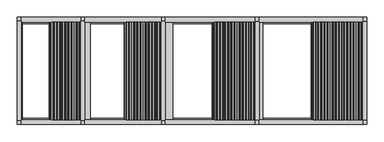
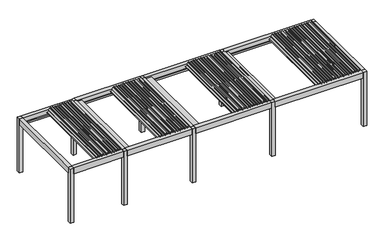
"""IFC4 building model written with IfcOpenShell, lengths in millimetres: proxy geometry, Renson_Camargue_Skye_Freestanding_Patio covers : Renson_Camargue_Skye_Freestanding_Patio covers."""

from ifc_helpers import new_model, si_unit, point, frame, frame_2d, origin, origin_with_axes, place, context, project, spatial, polyline, circle_curve, trimmed, segment, composite_curve, outline, extrude, source, transform, mapped, element, save


def generic_models_8e60f1ae(model_context):
    return source(origin(), model_context, "Body", "SweptSolid", [
        extrude(outline(composite_curve([segment(polyline([(2532.0835122, 11460.9276745), (2553.3547618, 11443.0789769), (2574.7237457, 11462.4891952), (2586.077577, 11446.2742437), (2504.561844, 11372.2305651)]), True, "CONTINUOUS"), segment(trimmed(circle_curve(frame_2d((2494.4763419, 11383.333837)), 15.0), [point((2504.561844, 11372.2305651))], [point((2485.8726953, 11371.0465563))], False, "CARTESIAN"), True, "CONTINUOUS"), segment(polyline([(2485.8726953, 11371.0465563), (2469.8777579, 11382.2463321), (2407.8391957, 11320.2077699), (2417.7863257, 11306.0017959), (2406.4649975, 11295.7182254), (2384.9376513, 11313.7818136), (2532.0835122, 11460.9276745)]), True, "CONTINUOUS")], self_intersect=False)), frame((0.0, -1830.0, 0.0), z_axis=(0.0, 1.0, 0.0), x_axis=(0.0, 0.0, 1.0)), (0.0, 0.0, 1.0), 3660.0),
        extrude(outline(composite_curve([segment(polyline([(2532.0835122, 11353.4168697), (2553.3547618, 11335.5681721), (2574.7237457, 11354.9783904), (2586.077577, 11338.7634389), (2504.561844, 11264.7197603)]), True, "CONTINUOUS"), segment(trimmed(circle_curve(frame_2d((2494.4763419, 11275.8230322)), 15.0), [point((2504.561844, 11264.7197603))], [point((2485.8726953, 11263.5357516))], False, "CARTESIAN"), True, "CONTINUOUS"), segment(polyline([(2485.8726953, 11263.5357516), (2469.8777579, 11274.7355273), (2407.8391957, 11212.6969652), (2417.7863257, 11198.4909912), (2406.4649975, 11188.2074206), (2384.9376513, 11206.2710088), (2532.0835122, 11353.4168697)]), True, "CONTINUOUS")], self_intersect=False)), frame((0.0, -1830.0, 0.0), z_axis=(0.0, 1.0, 0.0), x_axis=(0.0, 0.0, 1.0)), (0.0, 0.0, 1.0), 3660.0),
        extrude(outline(composite_curve([segment(polyline([(2532.0835122, 11245.906065), (2553.3547618, 11228.0573673), (2574.7237457, 11247.4675857), (2586.077577, 11231.2526342), (2504.561844, 11157.2089555)]), True, "CONTINUOUS"), segment(trimmed(circle_curve(frame_2d((2494.4763419, 11168.3122274)), 15.0), [point((2504.561844, 11157.2089555))], [point((2485.8726953, 11156.0249468))], False, "CARTESIAN"), True, "CONTINUOUS"), segment(polyline([(2485.8726953, 11156.0249468), (2469.8777579, 11167.2247226), (2407.8391957, 11105.1861604), (2417.7863257, 11090.9801864), (2406.4649975, 11080.6966158), (2384.9376513, 11098.760204), (2532.0835122, 11245.906065)]), True, "CONTINUOUS")], self_intersect=False)), frame((0.0, -1830.0, 0.0), z_axis=(0.0, 1.0, 0.0), x_axis=(0.0, 0.0, 1.0)), (0.0, 0.0, 1.0), 3660.0),
        extrude(outline(composite_curve([segment(polyline([(2532.0835122, 11138.3952602), (2553.3547618, 11120.5465625), (2574.7237457, 11139.9567809), (2586.077577, 11123.7418294), (2504.561844, 11049.6981507)]), True, "CONTINUOUS"), segment(trimmed(circle_curve(frame_2d((2494.4763419, 11060.8014227)), 15.0), [point((2504.561844, 11049.6981507))], [point((2485.8726953, 11048.514142))], False, "CARTESIAN"), True, "CONTINUOUS"), segment(polyline([(2485.8726953, 11048.514142), (2469.8777579, 11059.7139178), (2407.8391957, 10997.6753556), (2417.7863257, 10983.4693816), (2406.4649975, 10973.185811), (2384.9376513, 10991.2493993), (2532.0835122, 11138.3952602)]), True, "CONTINUOUS")], self_intersect=False)), frame((0.0, -1830.0, 0.0), z_axis=(0.0, 1.0, 0.0), x_axis=(0.0, 0.0, 1.0)), (0.0, 0.0, 1.0), 3660.0),
        extrude(outline(composite_curve([segment(polyline([(2532.0835122, 11030.8844554), (2553.3547618, 11013.0357577), (2574.7237457, 11032.4459761), (2586.077577, 11016.2310246), (2504.561844, 10942.187346)]), True, "CONTINUOUS"), segment(trimmed(circle_curve(frame_2d((2494.4763419, 10953.2906179)), 15.0), [point((2504.561844, 10942.187346))], [point((2485.8726953, 10941.0033372))], False, "CARTESIAN"), True, "CONTINUOUS"), segment(polyline([(2485.8726953, 10941.0033372), (2469.8777579, 10952.203113), (2407.8391957, 10890.1645508), (2417.7863257, 10875.9585768), (2406.4649975, 10865.6750063), (2384.9376513, 10883.7385945), (2532.0835122, 11030.8844554)]), True, "CONTINUOUS")], self_intersect=False)), frame((0.0, -1830.0, 0.0), z_axis=(0.0, 1.0, 0.0), x_axis=(0.0, 0.0, 1.0)), (0.0, 0.0, 1.0), 3660.0),
        extrude(outline(composite_curve([segment(polyline([(2532.0835122, 10923.3736506), (2553.3547618, 10905.5249529), (2574.7237457, 10924.9351713), (2586.077577, 10908.7202198), (2504.561844, 10834.6765412)]), True, "CONTINUOUS"), segment(trimmed(circle_curve(frame_2d((2494.4763419, 10845.7798131)), 15.0), [point((2504.561844, 10834.6765412))], [point((2485.8726953, 10833.4925324))], False, "CARTESIAN"), True, "CONTINUOUS"), segment(polyline([(2485.8726953, 10833.4925324), (2469.8777579, 10844.6923082), (2407.8391957, 10782.653746), (2417.7863257, 10768.447772), (2406.4649975, 10758.1642015), (2384.9376513, 10776.2277897), (2532.0835122, 10923.3736506)]), True, "CONTINUOUS")], self_intersect=False)), frame((0.0, -1830.0, 0.0), z_axis=(0.0, 1.0, 0.0), x_axis=(0.0, 0.0, 1.0)), (0.0, 0.0, 1.0), 3660.0),
        extrude(outline(composite_curve([segment(polyline([(2532.0835122, 10815.8628458), (2553.3547618, 10798.0141482), (2574.7237457, 10817.4243665), (2586.077577, 10801.209415), (2504.561844, 10727.1657364)]), True, "CONTINUOUS"), segment(trimmed(circle_curve(frame_2d((2494.4763419, 10738.2690083)), 15.0), [point((2504.561844, 10727.1657364))], [point((2485.8726953, 10725.9817276))], False, "CARTESIAN"), True, "CONTINUOUS"), segment(polyline([(2485.8726953, 10725.9817276), (2469.8777579, 10737.1815034), (2407.8391957, 10675.1429413), (2417.7863257, 10660.9369673), (2406.4649975, 10650.6533967), (2384.9376513, 10668.7169849), (2532.0835122, 10815.8628458)]), True, "CONTINUOUS")], self_intersect=False)), frame((0.0, -1830.0, 0.0), z_axis=(0.0, 1.0, 0.0), x_axis=(0.0, 0.0, 1.0)), (0.0, 0.0, 1.0), 3660.0),
        extrude(outline(composite_curve([segment(polyline([(2532.0835122, 10708.3520411), (2553.3547618, 10690.5033434), (2574.7237457, 10709.9135617), (2586.077577, 10693.6986103), (2504.561844, 10619.6549316)]), True, "CONTINUOUS"), segment(trimmed(circle_curve(frame_2d((2494.4763419, 10630.7582035)), 15.0), [point((2504.561844, 10619.6549316))], [point((2485.8726953, 10618.4709229))], False, "CARTESIAN"), True, "CONTINUOUS"), segment(polyline([(2485.8726953, 10618.4709229), (2469.8777579, 10629.6706987), (2407.8391957, 10567.6321365), (2417.7863257, 10553.4261625), (2406.4649975, 10543.1425919), (2384.9376513, 10561.2061801), (2532.0835122, 10708.3520411)]), True, "CONTINUOUS")], self_intersect=False)), frame((0.0, -1830.0, 0.0), z_axis=(0.0, 1.0, 0.0), x_axis=(0.0, 0.0, 1.0)), (0.0, 0.0, 1.0), 3660.0),
        extrude(outline(composite_curve([segment(polyline([(2532.0835122, 10600.8412363), (2553.3547618, 10582.9925386), (2574.7237457, 10602.402757), (2586.077577, 10586.1878055), (2504.561844, 10512.1441268)]), True, "CONTINUOUS"), segment(trimmed(circle_curve(frame_2d((2494.4763419, 10523.2473987)), 15.0), [point((2504.561844, 10512.1441268))], [point((2485.8726953, 10510.9601181))], False, "CARTESIAN"), True, "CONTINUOUS"), segment(polyline([(2485.8726953, 10510.9601181), (2469.8777579, 10522.1598939), (2407.8391957, 10460.1213317), (2417.7863257, 10445.9153577), (2406.4649975, 10435.6317871), (2384.9376513, 10453.6953753), (2532.0835122, 10600.8412363)]), True, "CONTINUOUS")], self_intersect=False)), frame((0.0, -1830.0, 0.0), z_axis=(0.0, 1.0, 0.0), x_axis=(0.0, 0.0, 1.0)), (0.0, 0.0, 1.0), 3660.0),
        extrude(outline(composite_curve([segment(polyline([(2532.0835122, 10493.3304315), (2553.3547618, 10475.4817338), (2574.7237457, 10494.8919522), (2586.077577, 10478.6770007), (2504.561844, 10404.6333221)]), True, "CONTINUOUS"), segment(trimmed(circle_curve(frame_2d((2494.4763419, 10415.736594)), 15.0), [point((2504.561844, 10404.6333221))], [point((2485.8726953, 10403.4493133))], False, "CARTESIAN"), True, "CONTINUOUS"), segment(polyline([(2485.8726953, 10403.4493133), (2469.8777579, 10414.6490891), (2407.8391957, 10352.6105269), (2417.7863257, 10338.4045529), (2406.4649975, 10328.1209823), (2384.9376513, 10346.1845706), (2532.0835122, 10493.3304315)]), True, "CONTINUOUS")], self_intersect=False)), frame((0.0, -1830.0, 0.0), z_axis=(0.0, 1.0, 0.0), x_axis=(0.0, 0.0, 1.0)), (0.0, 0.0, 1.0), 3660.0),
        extrude(outline(composite_curve([segment(polyline([(2532.0835122, 10385.8196267), (2553.3547618, 10367.970929), (2574.7237457, 10387.3811474), (2586.077577, 10371.1661959), (2504.561844, 10297.1225173)]), True, "CONTINUOUS"), segment(trimmed(circle_curve(frame_2d((2494.4763419, 10308.2257892)), 15.0), [point((2504.561844, 10297.1225173))], [point((2485.8726953, 10295.9385085))], False, "CARTESIAN"), True, "CONTINUOUS"), segment(polyline([(2485.8726953, 10295.9385085), (2469.8777579, 10307.1382843), (2407.8391957, 10245.0997221), (2417.7863257, 10230.8937481), (2406.4649975, 10220.6101776), (2384.9376513, 10238.6737658), (2532.0835122, 10385.8196267)]), True, "CONTINUOUS")], self_intersect=False)), frame((0.0, -1830.0, 0.0), z_axis=(0.0, 1.0, 0.0), x_axis=(0.0, 0.0, 1.0)), (0.0, 0.0, 1.0), 3660.0),
        extrude(outline(composite_curve([segment(polyline([(2532.0835122, 10278.3088219), (2553.3547618, 10260.4601243), (2574.7237457, 10279.8703426), (2586.077577, 10263.6553911), (2504.561844, 10189.6117125)]), True, "CONTINUOUS"), segment(trimmed(circle_curve(frame_2d((2494.4763419, 10200.7149844)), 15.0), [point((2504.561844, 10189.6117125))], [point((2485.8726953, 10188.4277037))], False, "CARTESIAN"), True, "CONTINUOUS"), segment(polyline([(2485.8726953, 10188.4277037), (2469.8777579, 10199.6274795), (2407.8391957, 10137.5889173), (2417.7863257, 10123.3829433), (2406.4649975, 10113.0993728), (2384.9376513, 10131.162961), (2532.0835122, 10278.3088219)]), True, "CONTINUOUS")], self_intersect=False)), frame((0.0, -1830.0, 0.0), z_axis=(0.0, 1.0, 0.0), x_axis=(0.0, 0.0, 1.0)), (0.0, 0.0, 1.0), 3660.0),
        extrude(outline(composite_curve([segment(polyline([(2532.0835122, 10170.7980171), (2553.3547618, 10152.9493195), (2574.7237457, 10172.3595378), (2586.077577, 10156.1445863), (2504.561844, 10082.1009077)]), True, "CONTINUOUS"), segment(trimmed(circle_curve(frame_2d((2494.4763419, 10093.2041796)), 15.0), [point((2504.561844, 10082.1009077))], [point((2485.8726953, 10080.916899))], False, "CARTESIAN"), True, "CONTINUOUS"), segment(polyline([(2485.8726953, 10080.916899), (2469.8777579, 10092.1166747), (2407.8391957, 10030.0781126), (2417.7863257, 10015.8721386), (2406.4649975, 10005.588568), (2384.9376513, 10023.6521562), (2532.0835122, 10170.7980171)]), True, "CONTINUOUS")], self_intersect=False)), frame((0.0, -1830.0, 0.0), z_axis=(0.0, 1.0, 0.0), x_axis=(0.0, 0.0, 1.0)), (0.0, 0.0, 1.0), 3660.0),
        extrude(outline(composite_curve([segment(polyline([(2532.0835122, 10063.2872124), (2553.3547618, 10045.4385147), (2574.7237457, 10064.8487331), (2586.077577, 10048.6337816), (2504.561844, 9974.5901029)]), True, "CONTINUOUS"), segment(trimmed(circle_curve(frame_2d((2494.4763419, 9985.6933748)), 15.0), [point((2504.561844, 9974.5901029))], [point((2485.8726953, 9973.4060942))], False, "CARTESIAN"), True, "CONTINUOUS"), segment(polyline([(2485.8726953, 9973.4060942), (2469.8777579, 9984.60587), (2407.8391957, 9922.5673078), (2417.7863257, 9908.3613338), (2406.4649975, 9898.0777632), (2384.9376513, 9916.1413514), (2532.0835122, 10063.2872124)]), True, "CONTINUOUS")], self_intersect=False)), frame((0.0, -1830.0, 0.0), z_axis=(0.0, 1.0, 0.0), x_axis=(0.0, 0.0, 1.0)), (0.0, 0.0, 1.0), 3660.0),
        extrude(outline(composite_curve([segment(polyline([(2532.0835122, 9955.7764076), (2553.3547618, 9937.9277099), (2574.7237457, 9957.3379283), (2586.077577, 9941.1229768), (2504.561844, 9867.0792981)]), True, "CONTINUOUS"), segment(trimmed(circle_curve(frame_2d((2494.4763419, 9878.1825701)), 15.0), [point((2504.561844, 9867.0792981))], [point((2485.8726953, 9865.8952894))], False, "CARTESIAN"), True, "CONTINUOUS"), segment(polyline([(2485.8726953, 9865.8952894), (2469.8777579, 9877.0950652), (2407.8391957, 9815.056503), (2417.7863257, 9800.850529), (2406.4649975, 9790.5669584), (2384.9376513, 9808.6305467), (2532.0835122, 9955.7764076)]), True, "CONTINUOUS")], self_intersect=False)), frame((0.0, -1830.0, 0.0), z_axis=(0.0, 1.0, 0.0), x_axis=(0.0, 0.0, 1.0)), (0.0, 0.0, 1.0), 3660.0),
        extrude(outline(composite_curve([segment(polyline([(2532.0835122, 11568.4384793), (2553.3547618, 11550.5897816), (2574.7237457, 11570.0), (2586.077577, 11553.7850485), (2504.561844, 11479.7413699)]), True, "CONTINUOUS"), segment(trimmed(circle_curve(frame_2d((2494.4763419, 11490.8446418)), 15.0), [point((2504.561844, 11479.7413699))], [point((2485.8726953, 11478.5573611))], False, "CARTESIAN"), True, "CONTINUOUS"), segment(polyline([(2485.8726953, 11478.5573611), (2469.8777579, 11489.7571369), (2407.8391957, 11427.7185747), (2417.7863257, 11413.5126007), (2406.4649975, 11403.2290302), (2384.9376513, 11421.2926184), (2532.0835122, 11568.4384793)]), True, "CONTINUOUS")], self_intersect=False)), frame((0.0, -1830.0, 0.0), z_axis=(0.0, 1.0, 0.0), x_axis=(0.0, 0.0, 1.0)), (0.0, 0.0, 1.0), 3660.0),
        extrude(outline(composite_curve([segment(polyline([(2532.0835122, 9848.2656028), (2553.3547618, 9830.4169051), (2574.7237457, 9849.8271235), (2586.077577, 9833.612172), (2504.561844, 9759.5684934)]), True, "CONTINUOUS"), segment(trimmed(circle_curve(frame_2d((2494.4763419, 9770.6717653)), 15.0), [point((2504.561844, 9759.5684934))], [point((2485.8726953, 9758.3844846))], False, "CARTESIAN"), True, "CONTINUOUS"), segment(polyline([(2485.8726953, 9758.3844846), (2469.8777579, 9769.5842604), (2407.8391957, 9707.5456982), (2417.7863257, 9693.3397242), (2406.4649975, 9683.0561537), (2384.9376513, 9701.1197419), (2532.0835122, 9848.2656028)]), True, "CONTINUOUS")], self_intersect=False)), frame((0.0, -1830.0, 0.0), z_axis=(0.0, 1.0, 0.0), x_axis=(0.0, 0.0, 1.0)), (0.0, 0.0, 1.0), 3660.0),
        extrude(outline(composite_curve([segment(polyline([(2532.0835122, 7460.9251811), (2553.3547618, 7443.0764834), (2574.7237457, 7462.4867018), (2586.077577, 7446.2717503), (2504.561844, 7372.2280717)]), True, "CONTINUOUS"), segment(trimmed(circle_curve(frame_2d((2494.4763419, 7383.3313436)), 15.0), [point((2504.561844, 7372.2280717))], [point((2485.8726953, 7371.0440629))], False, "CARTESIAN"), True, "CONTINUOUS"), segment(polyline([(2485.8726953, 7371.0440629), (2469.8777579, 7382.2438387), (2407.8391957, 7320.2052765), (2417.7863257, 7305.9993025), (2406.4649975, 7295.715732), (2384.9376513, 7313.7793202), (2532.0835122, 7460.9251811)]), True, "CONTINUOUS")], self_intersect=False)), frame((0.0, -1830.0, 0.0), z_axis=(0.0, 1.0, 0.0), x_axis=(0.0, 0.0, 1.0)), (0.0, 0.0, 1.0), 3660.0),
        extrude(outline(composite_curve([segment(polyline([(2532.0835122, 7353.4118829), (2553.3547618, 7335.5631853), (2574.7237457, 7354.9734036), (2586.077577, 7338.7584521), (2504.561844, 7264.7147735)]), True, "CONTINUOUS"), segment(trimmed(circle_curve(frame_2d((2494.4763419, 7275.8180454)), 15.0), [point((2504.561844, 7264.7147735))], [point((2485.8726953, 7263.5307647))], False, "CARTESIAN"), True, "CONTINUOUS"), segment(polyline([(2485.8726953, 7263.5307647), (2469.8777579, 7274.7305405), (2407.8391957, 7212.6919783), (2417.7863257, 7198.4860043), (2406.4649975, 7188.2024338), (2384.9376513, 7206.266022), (2532.0835122, 7353.4118829)]), True, "CONTINUOUS")], self_intersect=False)), frame((0.0, -1830.0, 0.0), z_axis=(0.0, 1.0, 0.0), x_axis=(0.0, 0.0, 1.0)), (0.0, 0.0, 1.0), 3660.0),
        extrude(outline(composite_curve([segment(polyline([(2532.0835122, 7245.8985847), (2553.3547618, 7228.0498871), (2574.7237457, 7247.4601054), (2586.077577, 7231.2451539), (2504.561844, 7157.2014753)]), True, "CONTINUOUS"), segment(trimmed(circle_curve(frame_2d((2494.4763419, 7168.3047472)), 15.0), [point((2504.561844, 7157.2014753))], [point((2485.8726953, 7156.0174665))], False, "CARTESIAN"), True, "CONTINUOUS"), segment(polyline([(2485.8726953, 7156.0174665), (2469.8777579, 7167.2172423), (2407.8391957, 7105.1786801), (2417.7863257, 7090.9727062), (2406.4649975, 7080.6891356), (2384.9376513, 7098.7527238), (2532.0835122, 7245.8985847)]), True, "CONTINUOUS")], self_intersect=False)), frame((0.0, -1830.0, 0.0), z_axis=(0.0, 1.0, 0.0), x_axis=(0.0, 0.0, 1.0)), (0.0, 0.0, 1.0), 3660.0),
        extrude(outline(composite_curve([segment(polyline([(2532.0835122, 7138.3852865), (2553.3547618, 7120.5365889), (2574.7237457, 7139.9468072), (2586.077577, 7123.7318557), (2504.561844, 7049.6881771)]), True, "CONTINUOUS"), segment(trimmed(circle_curve(frame_2d((2494.4763419, 7060.791449)), 15.0), [point((2504.561844, 7049.6881771))], [point((2485.8726953, 7048.5041683))], False, "CARTESIAN"), True, "CONTINUOUS"), segment(polyline([(2485.8726953, 7048.5041683), (2469.8777579, 7059.7039441), (2407.8391957, 6997.665382), (2417.7863257, 6983.459408), (2406.4649975, 6973.1758374), (2384.9376513, 6991.2394256), (2532.0835122, 7138.3852865)]), True, "CONTINUOUS")], self_intersect=False)), frame((0.0, -1830.0, 0.0), z_axis=(0.0, 1.0, 0.0), x_axis=(0.0, 0.0, 1.0)), (0.0, 0.0, 1.0), 3660.0),
        extrude(outline(composite_curve([segment(polyline([(2532.0835122, 7030.8719883), (2553.3547618, 7013.0232907), (2574.7237457, 7032.433509), (2586.077577, 7016.2185575), (2504.561844, 6942.1748789)]), True, "CONTINUOUS"), segment(trimmed(circle_curve(frame_2d((2494.4763419, 6953.2781508)), 15.0), [point((2504.561844, 6942.1748789))], [point((2485.8726953, 6940.9908702))], False, "CARTESIAN"), True, "CONTINUOUS"), segment(polyline([(2485.8726953, 6940.9908702), (2469.8777579, 6952.1906459), (2407.8391957, 6890.1520838), (2417.7863257, 6875.9461098), (2406.4649975, 6865.6625392), (2384.9376513, 6883.7261274), (2532.0835122, 7030.8719883)]), True, "CONTINUOUS")], self_intersect=False)), frame((0.0, -1830.0, 0.0), z_axis=(0.0, 1.0, 0.0), x_axis=(0.0, 0.0, 1.0)), (0.0, 0.0, 1.0), 3660.0),
        extrude(outline(composite_curve([segment(polyline([(2532.0835122, 6923.3586901), (2553.3547618, 6905.5099925), (2574.7237457, 6924.9202108), (2586.077577, 6908.7052594), (2504.561844, 6834.6615807)]), True, "CONTINUOUS"), segment(trimmed(circle_curve(frame_2d((2494.4763419, 6845.7648526)), 15.0), [point((2504.561844, 6834.6615807))], [point((2485.8726953, 6833.477572))], False, "CARTESIAN"), True, "CONTINUOUS"), segment(polyline([(2485.8726953, 6833.477572), (2469.8777579, 6844.6773478), (2407.8391957, 6782.6387856), (2417.7863257, 6768.4328116), (2406.4649975, 6758.149241), (2384.9376513, 6776.2128292), (2532.0835122, 6923.3586901)]), True, "CONTINUOUS")], self_intersect=False)), frame((0.0, -1830.0, 0.0), z_axis=(0.0, 1.0, 0.0), x_axis=(0.0, 0.0, 1.0)), (0.0, 0.0, 1.0), 3660.0),
        extrude(outline(composite_curve([segment(polyline([(2532.0835122, 6815.845392), (2553.3547618, 6797.9966943), (2574.7237457, 6817.4069127), (2586.077577, 6801.1919612), (2504.561844, 6727.1482825)]), True, "CONTINUOUS"), segment(trimmed(circle_curve(frame_2d((2494.4763419, 6738.2515544)), 15.0), [point((2504.561844, 6727.1482825))], [point((2485.8726953, 6725.9642738))], False, "CARTESIAN"), True, "CONTINUOUS"), segment(polyline([(2485.8726953, 6725.9642738), (2469.8777579, 6737.1640496), (2407.8391957, 6675.1254874), (2417.7863257, 6660.9195134), (2406.4649975, 6650.6359428), (2384.9376513, 6668.699531), (2532.0835122, 6815.845392)]), True, "CONTINUOUS")], self_intersect=False)), frame((0.0, -1830.0, 0.0), z_axis=(0.0, 1.0, 0.0), x_axis=(0.0, 0.0, 1.0)), (0.0, 0.0, 1.0), 3660.0),
        extrude(outline(composite_curve([segment(polyline([(2532.0835122, 6708.3320938), (2553.3547618, 6690.4833961), (2574.7237457, 6709.8936145), (2586.077577, 6693.678663), (2504.561844, 6619.6349843)]), True, "CONTINUOUS"), segment(trimmed(circle_curve(frame_2d((2494.4763419, 6630.7382562)), 15.0), [point((2504.561844, 6619.6349843))], [point((2485.8726953, 6618.4509756))], False, "CARTESIAN"), True, "CONTINUOUS"), segment(polyline([(2485.8726953, 6618.4509756), (2469.8777579, 6629.6507514), (2407.8391957, 6567.6121892), (2417.7863257, 6553.4062152), (2406.4649975, 6543.1226446), (2384.9376513, 6561.1862328), (2532.0835122, 6708.3320938)]), True, "CONTINUOUS")], self_intersect=False)), frame((0.0, -1830.0, 0.0), z_axis=(0.0, 1.0, 0.0), x_axis=(0.0, 0.0, 1.0)), (0.0, 0.0, 1.0), 3660.0),
        extrude(outline(composite_curve([segment(polyline([(2532.0835122, 6600.8187956), (2553.3547618, 6582.9700979), (2574.7237457, 6602.3803163), (2586.077577, 6586.1653648), (2504.561844, 6512.1216861)]), True, "CONTINUOUS"), segment(trimmed(circle_curve(frame_2d((2494.4763419, 6523.224958)), 15.0), [point((2504.561844, 6512.1216861))], [point((2485.8726953, 6510.9376774))], False, "CARTESIAN"), True, "CONTINUOUS"), segment(polyline([(2485.8726953, 6510.9376774), (2469.8777579, 6522.1374532), (2407.8391957, 6460.098891), (2417.7863257, 6445.892917), (2406.4649975, 6435.6093464), (2384.9376513, 6453.6729346), (2532.0835122, 6600.8187956)]), True, "CONTINUOUS")], self_intersect=False)), frame((0.0, -1830.0, 0.0), z_axis=(0.0, 1.0, 0.0), x_axis=(0.0, 0.0, 1.0)), (0.0, 0.0, 1.0), 3660.0),
        extrude(outline(composite_curve([segment(polyline([(2532.0835122, 6493.3054974), (2553.3547618, 6475.4567997), (2574.7237457, 6494.8670181), (2586.077577, 6478.6520666), (2504.561844, 6404.6083879)]), True, "CONTINUOUS"), segment(trimmed(circle_curve(frame_2d((2494.4763419, 6415.7116599)), 15.0), [point((2504.561844, 6404.6083879))], [point((2485.8726953, 6403.4243792))], False, "CARTESIAN"), True, "CONTINUOUS"), segment(polyline([(2485.8726953, 6403.4243792), (2469.8777579, 6414.624155), (2407.8391957, 6352.5855928), (2417.7863257, 6338.3796188), (2406.4649975, 6328.0960482), (2384.9376513, 6346.1596365), (2532.0835122, 6493.3054974)]), True, "CONTINUOUS")], self_intersect=False)), frame((0.0, -1830.0, 0.0), z_axis=(0.0, 1.0, 0.0), x_axis=(0.0, 0.0, 1.0)), (0.0, 0.0, 1.0), 3660.0),
        extrude(outline(composite_curve([segment(polyline([(2532.0835122, 6385.7921992), (2553.3547618, 6367.9435015), (2574.7237457, 6387.3537199), (2586.077577, 6371.1387684), (2504.561844, 6297.0950897)]), True, "CONTINUOUS"), segment(trimmed(circle_curve(frame_2d((2494.4763419, 6308.1983617)), 15.0), [point((2504.561844, 6297.0950897))], [point((2485.8726953, 6295.911081))], False, "CARTESIAN"), True, "CONTINUOUS"), segment(polyline([(2485.8726953, 6295.911081), (2469.8777579, 6307.1108568), (2407.8391957, 6245.0722946), (2417.7863257, 6230.8663206), (2406.4649975, 6220.58275), (2384.9376513, 6238.6463383), (2532.0835122, 6385.7921992)]), True, "CONTINUOUS")], self_intersect=False)), frame((0.0, -1830.0, 0.0), z_axis=(0.0, 1.0, 0.0), x_axis=(0.0, 0.0, 1.0)), (0.0, 0.0, 1.0), 3660.0),
        extrude(outline(composite_curve([segment(polyline([(2532.0835122, 6278.278901), (2553.3547618, 6260.4302033), (2574.7237457, 6279.8404217), (2586.077577, 6263.6254702), (2504.561844, 6189.5817916)]), True, "CONTINUOUS"), segment(trimmed(circle_curve(frame_2d((2494.4763419, 6200.6850635)), 15.0), [point((2504.561844, 6189.5817916))], [point((2485.8726953, 6188.3977828))], False, "CARTESIAN"), True, "CONTINUOUS"), segment(polyline([(2485.8726953, 6188.3977828), (2469.8777579, 6199.5975586), (2407.8391957, 6137.5589964), (2417.7863257, 6123.3530224), (2406.4649975, 6113.0694519), (2384.9376513, 6131.1330401), (2532.0835122, 6278.278901)]), True, "CONTINUOUS")], self_intersect=False)), frame((0.0, -1830.0, 0.0), z_axis=(0.0, 1.0, 0.0), x_axis=(0.0, 0.0, 1.0)), (0.0, 0.0, 1.0), 3660.0),
        extrude(outline(composite_curve([segment(polyline([(2532.0835122, 7568.4384793), (2553.3547618, 7550.5897816), (2574.7237457, 7570.0), (2586.077577, 7553.7850485), (2504.561844, 7479.7413699)]), True, "CONTINUOUS"), segment(trimmed(circle_curve(frame_2d((2494.4763419, 7490.8446418)), 15.0), [point((2504.561844, 7479.7413699))], [point((2485.8726953, 7478.5573611))], False, "CARTESIAN"), True, "CONTINUOUS"), segment(polyline([(2485.8726953, 7478.5573611), (2469.8777579, 7489.7571369), (2407.8391957, 7427.7185747), (2417.7863257, 7413.5126007), (2406.4649975, 7403.2290302), (2384.9376513, 7421.2926184), (2532.0835122, 7568.4384793)]), True, "CONTINUOUS")], self_intersect=False)), frame((0.0, -1830.0, 0.0), z_axis=(0.0, 1.0, 0.0), x_axis=(0.0, 0.0, 1.0)), (0.0, 0.0, 1.0), 3660.0),
        extrude(outline(composite_curve([segment(polyline([(2532.0835122, 6170.7656028), (2553.3547618, 6152.9169051), (2574.7237457, 6172.3271235), (2586.077577, 6156.112172), (2504.561844, 6082.0684934)]), True, "CONTINUOUS"), segment(trimmed(circle_curve(frame_2d((2494.4763419, 6093.1717653)), 15.0), [point((2504.561844, 6082.0684934))], [point((2485.8726953, 6080.8844846))], False, "CARTESIAN"), True, "CONTINUOUS"), segment(polyline([(2485.8726953, 6080.8844846), (2469.8777579, 6092.0842604), (2407.8391957, 6030.0456982), (2417.7863257, 6015.8397242), (2406.4649975, 6005.5561537), (2384.9376513, 6023.6197419), (2532.0835122, 6170.7656028)]), True, "CONTINUOUS")], self_intersect=False)), frame((0.0, -1830.0, 0.0), z_axis=(0.0, 1.0, 0.0), x_axis=(0.0, 0.0, 1.0)), (0.0, 0.0, 1.0), 3660.0),
        extrude(outline(composite_curve([segment(polyline([(2532.0835122, 3960.9227633), (2553.3547618, 3943.0740656), (2574.7237457, 3962.484284), (2586.077577, 3946.2693325), (2504.561844, 3872.2256538)]), True, "CONTINUOUS"), segment(trimmed(circle_curve(frame_2d((2494.4763419, 3883.3289257)), 15.0), [point((2504.561844, 3872.2256538))], [point((2485.8726953, 3871.0416451))], False, "CARTESIAN"), True, "CONTINUOUS"), segment(polyline([(2485.8726953, 3871.0416451), (2469.8777579, 3882.2414209), (2407.8391957, 3820.2028587), (2417.7863257, 3805.9968847), (2406.4649975, 3795.7133141), (2384.9376513, 3813.7769023), (2532.0835122, 3960.9227633)]), True, "CONTINUOUS")], self_intersect=False)), frame((0.0, -1830.0, 0.0), z_axis=(0.0, 1.0, 0.0), x_axis=(0.0, 0.0, 1.0)), (0.0, 0.0, 1.0), 3660.0),
        extrude(outline(composite_curve([segment(polyline([(2532.0835122, 3853.4070472), (2553.3547618, 3835.5583495), (2574.7237457, 3854.9685679), (2586.077577, 3838.7536164), (2504.561844, 3764.7099378)]), True, "CONTINUOUS"), segment(trimmed(circle_curve(frame_2d((2494.4763419, 3775.8132097)), 15.0), [point((2504.561844, 3764.7099378))], [point((2485.8726953, 3763.525929))], False, "CARTESIAN"), True, "CONTINUOUS"), segment(polyline([(2485.8726953, 3763.525929), (2469.8777579, 3774.7257048), (2407.8391957, 3712.6871426), (2417.7863257, 3698.4811686), (2406.4649975, 3688.1975981), (2384.9376513, 3706.2611863), (2532.0835122, 3853.4070472)]), True, "CONTINUOUS")], self_intersect=False)), frame((0.0, -1830.0, 0.0), z_axis=(0.0, 1.0, 0.0), x_axis=(0.0, 0.0, 1.0)), (0.0, 0.0, 1.0), 3660.0),
        extrude(outline(composite_curve([segment(polyline([(2532.0835122, 3745.8913312), (2553.3547618, 3728.0426335), (2574.7237457, 3747.4528519), (2586.077577, 3731.2379004), (2504.561844, 3657.1942217)]), True, "CONTINUOUS"), segment(trimmed(circle_curve(frame_2d((2494.4763419, 3668.2974936)), 15.0), [point((2504.561844, 3657.1942217))], [point((2485.8726953, 3656.010213))], False, "CARTESIAN"), True, "CONTINUOUS"), segment(polyline([(2485.8726953, 3656.010213), (2469.8777579, 3667.2099888), (2407.8391957, 3605.1714266), (2417.7863257, 3590.9654526), (2406.4649975, 3580.681882), (2384.9376513, 3598.7454702), (2532.0835122, 3745.8913312)]), True, "CONTINUOUS")], self_intersect=False)), frame((0.0, -1830.0, 0.0), z_axis=(0.0, 1.0, 0.0), x_axis=(0.0, 0.0, 1.0)), (0.0, 0.0, 1.0), 3660.0),
        extrude(outline(composite_curve([segment(polyline([(2532.0835122, 3638.3756151), (2553.3547618, 3620.5269175), (2574.7237457, 3639.9371358), (2586.077577, 3623.7221843), (2504.561844, 3549.6785057)]), True, "CONTINUOUS"), segment(trimmed(circle_curve(frame_2d((2494.4763419, 3560.7817776)), 15.0), [point((2504.561844, 3549.6785057))], [point((2485.8726953, 3548.4944969))], False, "CARTESIAN"), True, "CONTINUOUS"), segment(polyline([(2485.8726953, 3548.4944969), (2469.8777579, 3559.6942727), (2407.8391957, 3497.6557105), (2417.7863257, 3483.4497365), (2406.4649975, 3473.166166), (2384.9376513, 3491.2297542), (2532.0835122, 3638.3756151)]), True, "CONTINUOUS")], self_intersect=False)), frame((0.0, -1830.0, 0.0), z_axis=(0.0, 1.0, 0.0), x_axis=(0.0, 0.0, 1.0)), (0.0, 0.0, 1.0), 3660.0),
        extrude(outline(composite_curve([segment(polyline([(2532.0835122, 3530.8598991), (2553.3547618, 3513.0112014), (2574.7237457, 3532.4214198), (2586.077577, 3516.2064683), (2504.561844, 3442.1627896)]), True, "CONTINUOUS"), segment(trimmed(circle_curve(frame_2d((2494.4763419, 3453.2660616)), 15.0), [point((2504.561844, 3442.1627896))], [point((2485.8726953, 3440.9787809))], False, "CARTESIAN"), True, "CONTINUOUS"), segment(polyline([(2485.8726953, 3440.9787809), (2469.8777579, 3452.1785567), (2407.8391957, 3390.1399945), (2417.7863257, 3375.9340205), (2406.4649975, 3365.6504499), (2384.9376513, 3383.7140382), (2532.0835122, 3530.8598991)]), True, "CONTINUOUS")], self_intersect=False)), frame((0.0, -1830.0, 0.0), z_axis=(0.0, 1.0, 0.0), x_axis=(0.0, 0.0, 1.0)), (0.0, 0.0, 1.0), 3660.0),
        extrude(outline(composite_curve([segment(polyline([(2532.0835122, 3423.344183), (2553.3547618, 3405.4954854), (2574.7237457, 3424.9057037), (2586.077577, 3408.6907522), (2504.561844, 3334.6470736)]), True, "CONTINUOUS"), segment(trimmed(circle_curve(frame_2d((2494.4763419, 3345.7503455)), 15.0), [point((2504.561844, 3334.6470736))], [point((2485.8726953, 3333.4630648))], False, "CARTESIAN"), True, "CONTINUOUS"), segment(polyline([(2485.8726953, 3333.4630648), (2469.8777579, 3344.6628406), (2407.8391957, 3282.6242784), (2417.7863257, 3268.4183045), (2406.4649975, 3258.1347339), (2384.9376513, 3276.1983221), (2532.0835122, 3423.344183)]), True, "CONTINUOUS")], self_intersect=False)), frame((0.0, -1830.0, 0.0), z_axis=(0.0, 1.0, 0.0), x_axis=(0.0, 0.0, 1.0)), (0.0, 0.0, 1.0), 3660.0),
        extrude(outline(composite_curve([segment(polyline([(2532.0835122, 3315.828467), (2553.3547618, 3297.9797693), (2574.7237457, 3317.3899877), (2586.077577, 3301.1750362), (2504.561844, 3227.1313575)]), True, "CONTINUOUS"), segment(trimmed(circle_curve(frame_2d((2494.4763419, 3238.2346295)), 15.0), [point((2504.561844, 3227.1313575))], [point((2485.8726953, 3225.9473488))], False, "CARTESIAN"), True, "CONTINUOUS"), segment(polyline([(2485.8726953, 3225.9473488), (2469.8777579, 3237.1471246), (2407.8391957, 3175.1085624), (2417.7863257, 3160.9025884), (2406.4649975, 3150.6190178), (2384.9376513, 3168.6826061), (2532.0835122, 3315.828467)]), True, "CONTINUOUS")], self_intersect=False)), frame((0.0, -1830.0, 0.0), z_axis=(0.0, 1.0, 0.0), x_axis=(0.0, 0.0, 1.0)), (0.0, 0.0, 1.0), 3660.0),
        extrude(outline(composite_curve([segment(polyline([(2532.0835122, 3208.3127509), (2553.3547618, 3190.4640533), (2574.7237457, 3209.8742716), (2586.077577, 3193.6593201), (2504.561844, 3119.6156415)]), True, "CONTINUOUS"), segment(trimmed(circle_curve(frame_2d((2494.4763419, 3130.7189134)), 15.0), [point((2504.561844, 3119.6156415))], [point((2485.8726953, 3118.4316327))], False, "CARTESIAN"), True, "CONTINUOUS"), segment(polyline([(2485.8726953, 3118.4316327), (2469.8777579, 3129.6314085), (2407.8391957, 3067.5928464), (2417.7863257, 3053.3868724), (2406.4649975, 3043.1033018), (2384.9376513, 3061.16689), (2532.0835122, 3208.3127509)]), True, "CONTINUOUS")], self_intersect=False)), frame((0.0, -1830.0, 0.0), z_axis=(0.0, 1.0, 0.0), x_axis=(0.0, 0.0, 1.0)), (0.0, 0.0, 1.0), 3660.0),
        extrude(outline(composite_curve([segment(polyline([(2532.0835122, 3100.7970349), (2553.3547618, 3082.9483372), (2574.7237457, 3102.3585556), (2586.077577, 3086.1436041), (2504.561844, 3012.0999255)]), True, "CONTINUOUS"), segment(trimmed(circle_curve(frame_2d((2494.4763419, 3023.2031974)), 15.0), [point((2504.561844, 3012.0999255))], [point((2485.8726953, 3010.9159167))], False, "CARTESIAN"), True, "CONTINUOUS"), segment(polyline([(2485.8726953, 3010.9159167), (2469.8777579, 3022.1156925), (2407.8391957, 2960.0771303), (2417.7863257, 2945.8711563), (2406.4649975, 2935.5875858), (2384.9376513, 2953.651174), (2532.0835122, 3100.7970349)]), True, "CONTINUOUS")], self_intersect=False)), frame((0.0, -1830.0, 0.0), z_axis=(0.0, 1.0, 0.0), x_axis=(0.0, 0.0, 1.0)), (0.0, 0.0, 1.0), 3660.0),
        extrude(outline(composite_curve([segment(polyline([(2532.0835122, 2993.2813188), (2553.3547618, 2975.4326212), (2574.7237457, 2994.8428395), (2586.077577, 2978.627888), (2504.561844, 2904.5842094)]), True, "CONTINUOUS"), segment(trimmed(circle_curve(frame_2d((2494.4763419, 2915.6874813)), 15.0), [point((2504.561844, 2904.5842094))], [point((2485.8726953, 2903.4002007))], False, "CARTESIAN"), True, "CONTINUOUS"), segment(polyline([(2485.8726953, 2903.4002007), (2469.8777579, 2914.5999764), (2407.8391957, 2852.5614143), (2417.7863257, 2838.3554403), (2406.4649975, 2828.0718697), (2384.9376513, 2846.1354579), (2532.0835122, 2993.2813188)]), True, "CONTINUOUS")], self_intersect=False)), frame((0.0, -1830.0, 0.0), z_axis=(0.0, 1.0, 0.0), x_axis=(0.0, 0.0, 1.0)), (0.0, 0.0, 1.0), 3660.0),
        extrude(outline(composite_curve([segment(polyline([(2532.0835122, 4068.4384793), (2553.3547618, 4050.5897816), (2574.7237457, 4070.0), (2586.077577, 4053.7850485), (2504.561844, 3979.7413699)]), True, "CONTINUOUS"), segment(trimmed(circle_curve(frame_2d((2494.4763419, 3990.8446418)), 15.0), [point((2504.561844, 3979.7413699))], [point((2485.8726953, 3978.5573611))], False, "CARTESIAN"), True, "CONTINUOUS"), segment(polyline([(2485.8726953, 3978.5573611), (2469.8777579, 3989.7571369), (2407.8391957, 3927.7185747), (2417.7863257, 3913.5126007), (2406.4649975, 3903.2290302), (2384.9376513, 3921.2926184), (2532.0835122, 4068.4384793)]), True, "CONTINUOUS")], self_intersect=False)), frame((0.0, -1830.0, 0.0), z_axis=(0.0, 1.0, 0.0), x_axis=(0.0, 0.0, 1.0)), (0.0, 0.0, 1.0), 3660.0),
        extrude(outline(composite_curve([segment(polyline([(2532.0835122, 2885.7656028), (2553.3547618, 2867.9169051), (2574.7237457, 2887.3271235), (2586.077577, 2871.112172), (2504.561844, 2797.0684934)]), True, "CONTINUOUS"), segment(trimmed(circle_curve(frame_2d((2494.4763419, 2808.1717653)), 15.0), [point((2504.561844, 2797.0684934))], [point((2485.8726953, 2795.8844846))], False, "CARTESIAN"), True, "CONTINUOUS"), segment(polyline([(2485.8726953, 2795.8844846), (2469.8777579, 2807.0842604), (2407.8391957, 2745.0456982), (2417.7863257, 2730.8397242), (2406.4649975, 2720.5561537), (2384.9376513, 2738.6197419), (2532.0835122, 2885.7656028)]), True, "CONTINUOUS")], self_intersect=False)), frame((0.0, -1830.0, 0.0), z_axis=(0.0, 1.0, 0.0), x_axis=(0.0, 0.0, 1.0)), (0.0, 0.0, 1.0), 3660.0),
        extrude(outline(composite_curve([segment(polyline([(2532.0835122, 960.9192708), (2553.3547618, 943.0705731), (2574.7237457, 962.4807915), (2586.077577, 946.26584), (2504.561844, 872.2221614)]), True, "CONTINUOUS"), segment(trimmed(circle_curve(frame_2d((2494.4763419, 883.3254333)), 15.0), [point((2504.561844, 872.2221614))], [point((2485.8726953, 871.0381526))], False, "CARTESIAN"), True, "CONTINUOUS"), segment(polyline([(2485.8726953, 871.0381526), (2469.8777579, 882.2379284), (2407.8391957, 820.1993662), (2417.7863257, 805.9933922), (2406.4649975, 795.7098217), (2384.9376513, 813.7734099), (2532.0835122, 960.9192708)]), True, "CONTINUOUS")], self_intersect=False)), frame((0.0, -1830.0, 0.0), z_axis=(0.0, 1.0, 0.0), x_axis=(0.0, 0.0, 1.0)), (0.0, 0.0, 1.0), 3660.0),
        extrude(outline(composite_curve([segment(polyline([(2532.0835122, 853.4000623), (2553.3547618, 835.5513646), (2574.7237457, 854.961583), (2586.077577, 838.7466315), (2504.561844, 764.7029529)]), True, "CONTINUOUS"), segment(trimmed(circle_curve(frame_2d((2494.4763419, 775.8062248)), 15.0), [point((2504.561844, 764.7029529))], [point((2485.8726953, 763.5189441))], False, "CARTESIAN"), True, "CONTINUOUS"), segment(polyline([(2485.8726953, 763.5189441), (2469.8777579, 774.7187199), (2407.8391957, 712.6801577), (2417.7863257, 698.4741837), (2406.4649975, 688.1906132), (2384.9376513, 706.2542014), (2532.0835122, 853.4000623)]), True, "CONTINUOUS")], self_intersect=False)), frame((0.0, -1830.0, 0.0), z_axis=(0.0, 1.0, 0.0), x_axis=(0.0, 0.0, 1.0)), (0.0, 0.0, 1.0), 3660.0),
        extrude(outline(composite_curve([segment(polyline([(2532.0835122, 745.8808538), (2553.3547618, 728.0321561), (2574.7237457, 747.4423745), (2586.077577, 731.227423), (2504.561844, 657.1837444)]), True, "CONTINUOUS"), segment(trimmed(circle_curve(frame_2d((2494.4763419, 668.2870163)), 15.0), [point((2504.561844, 657.1837444))], [point((2485.8726953, 655.9997356))], False, "CARTESIAN"), True, "CONTINUOUS"), segment(polyline([(2485.8726953, 655.9997356), (2469.8777579, 667.1995114), (2407.8391957, 605.1609492), (2417.7863257, 590.9549752), (2406.4649975, 580.6714047), (2384.9376513, 598.7349929), (2532.0835122, 745.8808538)]), True, "CONTINUOUS")], self_intersect=False)), frame((0.0, -1830.0, 0.0), z_axis=(0.0, 1.0, 0.0), x_axis=(0.0, 0.0, 1.0)), (0.0, 0.0, 1.0), 3660.0),
        extrude(outline(composite_curve([segment(polyline([(2532.0835122, 638.3616453), (2553.3547618, 620.5129476), (2574.7237457, 639.923166), (2586.077577, 623.7082145), (2504.561844, 549.6645359)]), True, "CONTINUOUS"), segment(trimmed(circle_curve(frame_2d((2494.4763419, 560.7678078)), 15.0), [point((2504.561844, 549.6645359))], [point((2485.8726953, 548.4805271))], False, "CARTESIAN"), True, "CONTINUOUS"), segment(polyline([(2485.8726953, 548.4805271), (2469.8777579, 559.6803029), (2407.8391957, 497.6417407), (2417.7863257, 483.4357667), (2406.4649975, 473.1521962), (2384.9376513, 491.2157844), (2532.0835122, 638.3616453)]), True, "CONTINUOUS")], self_intersect=False)), frame((0.0, -1830.0, 0.0), z_axis=(0.0, 1.0, 0.0), x_axis=(0.0, 0.0, 1.0)), (0.0, 0.0, 1.0), 3660.0),
        extrude(outline(composite_curve([segment(polyline([(2532.0835122, 530.8424368), (2553.3547618, 512.9937391), (2574.7237457, 532.4039575), (2586.077577, 516.189006), (2504.561844, 442.1453274)]), True, "CONTINUOUS"), segment(trimmed(circle_curve(frame_2d((2494.4763419, 453.2485993)), 15.0), [point((2504.561844, 442.1453274))], [point((2485.8726953, 440.9613186))], False, "CARTESIAN"), True, "CONTINUOUS"), segment(polyline([(2485.8726953, 440.9613186), (2469.8777579, 452.1610944), (2407.8391957, 390.1225322), (2417.7863257, 375.9165582), (2406.4649975, 365.6329877), (2384.9376513, 383.6965759), (2532.0835122, 530.8424368)]), True, "CONTINUOUS")], self_intersect=False)), frame((0.0, -1830.0, 0.0), z_axis=(0.0, 1.0, 0.0), x_axis=(0.0, 0.0, 1.0)), (0.0, 0.0, 1.0), 3660.0),
        extrude(outline(composite_curve([segment(polyline([(2532.0835122, 423.3232283), (2553.3547618, 405.4745306), (2574.7237457, 424.884749), (2586.077577, 408.6697975), (2504.561844, 334.6261189)]), True, "CONTINUOUS"), segment(trimmed(circle_curve(frame_2d((2494.4763419, 345.7293908)), 15.0), [point((2504.561844, 334.6261189))], [point((2485.8726953, 333.4421101))], False, "CARTESIAN"), True, "CONTINUOUS"), segment(polyline([(2485.8726953, 333.4421101), (2469.8777579, 344.6418859), (2407.8391957, 282.6033237), (2417.7863257, 268.3973497), (2406.4649975, 258.1137792), (2384.9376513, 276.1773674), (2532.0835122, 423.3232283)]), True, "CONTINUOUS")], self_intersect=False)), frame((0.0, -1830.0, 0.0), z_axis=(0.0, 1.0, 0.0), x_axis=(0.0, 0.0, 1.0)), (0.0, 0.0, 1.0), 3660.0),
        extrude(outline(composite_curve([segment(polyline([(2532.0835122, 315.8040198), (2553.3547618, 297.9553221), (2574.7237457, 317.3655405), (2586.077577, 301.150589), (2504.561844, 227.1069104)]), True, "CONTINUOUS"), segment(trimmed(circle_curve(frame_2d((2494.4763419, 238.2101823)), 15.0), [point((2504.561844, 227.1069104))], [point((2485.8726953, 225.9229016))], False, "CARTESIAN"), True, "CONTINUOUS"), segment(polyline([(2485.8726953, 225.9229016), (2469.8777579, 237.1226774), (2407.8391957, 175.0841152), (2417.7863257, 160.8781412), (2406.4649975, 150.5945707), (2384.9376513, 168.6581589), (2532.0835122, 315.8040198)]), True, "CONTINUOUS")], self_intersect=False)), frame((0.0, -1830.0, 0.0), z_axis=(0.0, 1.0, 0.0), x_axis=(0.0, 0.0, 1.0)), (0.0, 0.0, 1.0), 3660.0),
        extrude(outline(composite_curve([segment(polyline([(2532.0835122, 208.2848113), (2553.3547618, 190.4361136), (2574.7237457, 209.846332), (2586.077577, 193.6313805), (2504.561844, 119.5877019)]), True, "CONTINUOUS"), segment(trimmed(circle_curve(frame_2d((2494.4763419, 130.6909738)), 15.0), [point((2504.561844, 119.5877019))], [point((2485.8726953, 118.4036931))], False, "CARTESIAN"), True, "CONTINUOUS"), segment(polyline([(2485.8726953, 118.4036931), (2469.8777579, 129.6034689), (2407.8391957, 67.5649067), (2417.7863257, 53.3589327), (2406.4649975, 43.0753622), (2384.9376513, 61.1389504), (2532.0835122, 208.2848113)]), True, "CONTINUOUS")], self_intersect=False)), frame((0.0, -1830.0, 0.0), z_axis=(0.0, 1.0, 0.0), x_axis=(0.0, 0.0, 1.0)), (0.0, 0.0, 1.0), 3660.0),
        extrude(outline(composite_curve([segment(polyline([(2532.0835122, 1068.4384793), (2553.3547618, 1050.5897816), (2574.7237457, 1070.0), (2586.077577, 1053.7850485), (2504.561844, 979.7413699)]), True, "CONTINUOUS"), segment(trimmed(circle_curve(frame_2d((2494.4763419, 990.8446418)), 15.0), [point((2504.561844, 979.7413699))], [point((2485.8726953, 978.5573611))], False, "CARTESIAN"), True, "CONTINUOUS"), segment(polyline([(2485.8726953, 978.5573611), (2469.8777579, 989.7571369), (2407.8391957, 927.7185747), (2417.7863257, 913.5126007), (2406.4649975, 903.2290302), (2384.9376513, 921.2926184), (2532.0835122, 1068.4384793)]), True, "CONTINUOUS")], self_intersect=False)), frame((0.0, -1830.0, 0.0), z_axis=(0.0, 1.0, 0.0), x_axis=(0.0, 0.0, 1.0)), (0.0, 0.0, 1.0), 3660.0),
        extrude(outline(composite_curve([segment(polyline([(2532.0835122, 100.7656028), (2553.3547618, 82.9169051), (2574.7237457, 102.3271235), (2586.077577, 86.112172), (2504.561844, 12.0684934)]), True, "CONTINUOUS"), segment(trimmed(circle_curve(frame_2d((2494.4763419, 23.1717653)), 15.0), [point((2504.561844, 12.0684934))], [point((2485.8726953, 10.8844846))], False, "CARTESIAN"), True, "CONTINUOUS"), segment(polyline([(2485.8726953, 10.8844846), (2469.8777579, 22.0842604), (2407.8391957, -39.9543018), (2417.7863257, -54.1602758), (2406.4649975, -64.4438463), (2384.9376513, -46.3802581), (2532.0835122, 100.7656028)]), True, "CONTINUOUS")], self_intersect=False)), frame((0.0, -1830.0, 0.0), z_axis=(0.0, 1.0, 0.0), x_axis=(0.0, 0.0, 1.0)), (0.0, 0.0, 1.0), 3660.0),
        extrude(outline(polyline([(2441.6559373, 7750.0), (2441.6559373, 7885.0), (2455.6555802, 7888.7512887), (2455.6555802, 7770.4059055), (2471.400763, 7755.0), (2479.2449277, 7755.0), (2479.6823598, 7750.0), (2441.6559373, 7750.0)])), frame((0.0, -1850.0, 0.0), z_axis=(0.0, 1.0, 0.0), x_axis=(0.0, 0.0, 1.0)), (0.0, 0.0, 1.0), 3700.0),
        extrude(outline(polyline([(-1830.0, 2510.0), (-1830.0, 2322.0), (-1770.0, 2322.0), (-1770.0, 2250.0), (-2000.0, 2250.0), (-2000.0, 2510.0), (-1830.0, 2510.0)])), frame((7750.0, 0.0, 0.0), z_axis=(1.0, 0.0, 0.0), x_axis=(0.0, 1.0, 0.0)), (0.0, 0.0, 1.0), 3850.0),
        extrude(outline(polyline([(2000.0, 2250.0), (1770.0, 2250.0), (1770.0, 2322.0), (1830.0, 2322.0), (1830.0, 2510.0), (2000.0, 2510.0), (2000.0, 2250.0)])), frame((7750.0, 0.0, 0.0), z_axis=(1.0, 0.0, 0.0), x_axis=(0.0, 1.0, 0.0)), (0.0, 0.0, 1.0), 3850.0),
        extrude(outline(polyline([(11750.0, 1850.0), (11600.0, 1850.0), (11600.0, 2000.0), (11750.0, 2000.0), (11750.0, 1850.0)])), origin_with_axes(), (0.0, 0.0, 1.0), 2510.0),
        extrude(outline(polyline([(11750.0, -1850.0), (11750.0, -2000.0), (11600.0, -2000.0), (11600.0, -1850.0), (11750.0, -1850.0)])), origin_with_axes(), (0.0, 0.0, 1.0), 2510.0),
        extrude(outline(polyline([(2510.0, 11750.0), (2510.0, 11600.0), (2479.6823598, 11600.0), (2479.2449277, 11595.0), (2471.400763, 11595.0), (2455.6555802, 11579.2544156), (2455.6555802, 11569.9090324), (2441.6559373, 11573.6603211), (2441.6559373, 11600.0), (2250.0, 11600.0), (2250.0, 11750.0), (2510.0, 11750.0)])), frame((0.0, -1850.0, 0.0), z_axis=(0.0, 1.0, 0.0), x_axis=(0.0, 0.0, 1.0)), (0.0, 0.0, 1.0), 3700.0),
        extrude(outline(polyline([(2441.6559373, 4250.0), (2441.6559373, 4530.0), (2455.6555802, 4533.7512887), (2455.6555802, 4270.4059055), (2471.400763, 4255.0), (2479.2449277, 4255.0), (2479.6823598, 4250.0), (2441.6559373, 4250.0)])), frame((0.0, -1850.0, 0.0), z_axis=(0.0, 1.0, 0.0), x_axis=(0.0, 0.0, 1.0)), (0.0, 0.0, 1.0), 3700.0),
        extrude(outline(polyline([(7750.0, 1850.0), (7600.0, 1850.0), (7600.0, 2000.0), (7750.0, 2000.0), (7750.0, 1850.0)])), origin_with_axes(), (0.0, 0.0, 1.0), 2510.0),
        extrude(outline(polyline([(7750.0, -1850.0), (7750.0, -2000.0), (7600.0, -2000.0), (7600.0, -1850.0), (7750.0, -1850.0)])), origin_with_axes(), (0.0, 0.0, 1.0), 2510.0),
        extrude(outline(polyline([(-1830.0, 2510.0), (-1830.0, 2322.0), (-1770.0, 2322.0), (-1770.0, 2250.0), (-2000.0, 2250.0), (-2000.0, 2510.0), (-1830.0, 2510.0)])), frame((4250.0, 0.0, 0.0), z_axis=(1.0, 0.0, 0.0), x_axis=(0.0, 1.0, 0.0)), (0.0, 0.0, 1.0), 3350.0),
        extrude(outline(polyline([(2000.0, 2250.0), (1770.0, 2250.0), (1770.0, 2322.0), (1830.0, 2322.0), (1830.0, 2510.0), (2000.0, 2510.0), (2000.0, 2250.0)])), frame((4250.0, 0.0, 0.0), z_axis=(1.0, 0.0, 0.0), x_axis=(0.0, 1.0, 0.0)), (0.0, 0.0, 1.0), 3350.0),
        extrude(outline(polyline([(2510.0, 7750.0), (2510.0, 7600.0), (2479.6823598, 7600.0), (2479.2449277, 7595.0), (2471.400763, 7595.0), (2455.6555802, 7579.2544156), (2455.6555802, 7569.9090324), (2441.6559373, 7573.6603211), (2441.6559373, 7600.0), (2250.0, 7600.0), (2250.0, 7750.0), (2510.0, 7750.0)])), frame((0.0, -1850.0, 0.0), z_axis=(0.0, 1.0, 0.0), x_axis=(0.0, 0.0, 1.0)), (0.0, 0.0, 1.0), 3700.0),
        extrude(outline(polyline([(2441.6559373, 1250.0), (2441.6559373, 1460.0), (2455.6555802, 1463.7512887), (2455.6555802, 1270.4059055), (2471.400763, 1255.0), (2479.2449277, 1255.0), (2479.6823598, 1250.0), (2441.6559373, 1250.0)])), frame((0.0, -1850.0, 0.0), z_axis=(0.0, 1.0, 0.0), x_axis=(0.0, 0.0, 1.0)), (0.0, 0.0, 1.0), 3700.0),
        extrude(outline(polyline([(-1830.0, 2510.0), (-1830.0, 2322.0), (-1770.0, 2322.0), (-1770.0, 2250.0), (-2000.0, 2250.0), (-2000.0, 2510.0), (-1830.0, 2510.0)])), frame((1250.0, 0.0, 0.0), z_axis=(1.0, 0.0, 0.0), x_axis=(0.0, 1.0, 0.0)), (0.0, 0.0, 1.0), 2850.0),
        extrude(outline(polyline([(2000.0, 2250.0), (1770.0, 2250.0), (1770.0, 2322.0), (1830.0, 2322.0), (1830.0, 2510.0), (2000.0, 2510.0), (2000.0, 2250.0)])), frame((1250.0, 0.0, 0.0), z_axis=(1.0, 0.0, 0.0), x_axis=(0.0, 1.0, 0.0)), (0.0, 0.0, 1.0), 2850.0),
        extrude(outline(polyline([(2510.0, 4250.0), (2510.0, 4100.0), (2479.6823598, 4100.0), (2479.2449277, 4095.0), (2471.400763, 4095.0), (2455.6555802, 4079.2544156), (2455.6555802, 4069.9090324), (2441.6559373, 4073.6603211), (2441.6559373, 4100.0), (2250.0, 4100.0), (2250.0, 4250.0), (2510.0, 4250.0)])), frame((0.0, -1850.0, 0.0), z_axis=(0.0, 1.0, 0.0), x_axis=(0.0, 0.0, 1.0)), (0.0, 0.0, 1.0), 3700.0),
        extrude(outline(polyline([(4250.0, 1850.0), (4100.0, 1850.0), (4100.0, 2000.0), (4250.0, 2000.0), (4250.0, 1850.0)])), origin_with_axes(), (0.0, 0.0, 1.0), 2510.0),
        extrude(outline(polyline([(4250.0, -1850.0), (4250.0, -2000.0), (4100.0, -2000.0), (4100.0, -1850.0), (4250.0, -1850.0)])), origin_with_axes(), (0.0, 0.0, 1.0), 2510.0),
        extrude(outline(polyline([(2441.6559373, -1100.0), (2441.6559373, -1074.0), (2455.6555802, -1070.2487113), (2455.6555802, -1079.5940945), (2471.400763, -1095.0), (2479.2449277, -1095.0), (2479.6823598, -1100.0), (2441.6559373, -1100.0)])), frame((0.0, -1850.0, 0.0), z_axis=(0.0, 1.0, 0.0), x_axis=(0.0, 0.0, 1.0)), (0.0, 0.0, 1.0), 3700.0),
        extrude(outline(polyline([(-1100.0, -1850.0), (-1250.0, -1850.0), (-1250.0, 1850.0), (-1100.0, 1850.0), (-1100.0, -1850.0)])), frame((0.0, 0.0, 2250.0), z_axis=(0.0, 0.0, 1.0), x_axis=(1.0, 0.0, 0.0)), (0.0, 0.0, 1.0), 260.0),
        extrude(outline(polyline([(2510.0, 1250.0), (2510.0, 1100.0), (2479.6904658, 1100.0), (2479.2449277, 1095.0), (2471.400763, 1095.0), (2455.6555802, 1079.2544156), (2455.6555802, 1069.9090324), (2441.6559373, 1073.6603211), (2441.6559373, 1100.0), (2250.0, 1100.0), (2250.0, 1250.0), (2510.0, 1250.0)])), frame((0.0, -1850.0, 0.0), z_axis=(0.0, 1.0, 0.0), x_axis=(0.0, 0.0, 1.0)), (0.0, 0.0, 1.0), 3700.0),
        extrude(outline(polyline([(-1830.0, 2510.0), (-1830.0, 2322.0), (-1770.0, 2322.0), (-1770.0, 2250.0), (-2000.0, 2250.0), (-2000.0, 2510.0), (-1830.0, 2510.0)])), frame((-1100.0, 0.0, 0.0), z_axis=(1.0, 0.0, 0.0), x_axis=(0.0, 1.0, 0.0)), (0.0, 0.0, 1.0), 2200.0),
        extrude(outline(polyline([(2000.0, 2250.0), (1770.0, 2250.0), (1770.0, 2322.0), (1830.0, 2322.0), (1830.0, 2510.0), (2000.0, 2510.0), (2000.0, 2250.0)])), frame((-1100.0, 0.0, 0.0), z_axis=(1.0, 0.0, 0.0), x_axis=(0.0, 1.0, 0.0)), (0.0, 0.0, 1.0), 2200.0),
        extrude(outline(polyline([(-1100.0, 2000.0), (-1100.0, 1850.0), (-1250.0, 1850.0), (-1250.0, 2000.0), (-1100.0, 2000.0)])), origin_with_axes(), (0.0, 0.0, 1.0), 2510.0),
        extrude(outline(polyline([(1250.0, 2000.0), (1250.0, 1850.0), (1100.0, 1850.0), (1100.0, 2000.0), (1250.0, 2000.0)])), origin_with_axes(), (0.0, 0.0, 1.0), 2510.0),
        extrude(outline(polyline([(1250.0, -1850.0), (1250.0, -2000.0), (1100.0, -2000.0), (1100.0, -1850.0), (1250.0, -1850.0)])), origin_with_axes(), (0.0, 0.0, 1.0), 2510.0),
        extrude(outline(polyline([(-1100.0, -1850.0), (-1100.0, -2000.0), (-1250.0, -2000.0), (-1250.0, -1850.0), (-1100.0, -1850.0)])), origin_with_axes(), (0.0, 0.0, 1.0), 2510.0),
    ])


if __name__ == "__main__":
    model = new_model("IFC4")
    model_context = context("Model", 3, world=origin())
    ifc_project = project(units=[si_unit("LENGTHUNIT", "METRE", prefix="MILLI")], contexts=[model_context])
    site = spatial("IfcSite", under=ifc_project)
    building = spatial("IfcBuilding", under=site)
    placement = place(None, origin())
    generic_models_shape = generic_models_8e60f1ae(model_context)
    element("IfcBuildingElementProxy", 1, Name="Renson_Camargue_Skye_Freestanding_Patio covers : Renson_Camargue_Skye_Freestanding_Patio covers", ObjectType="Renson_Camargue_Skye_Freestanding_Patio covers : Renson_Camargue_Skye_Freestanding_Patio covers", at=placement, inside=building, context=model_context, shape_type="MappedRepresentation", body=[
        mapped(generic_models_shape, transform((0.0, 0.0, 0.0), x_axis=(1.0, 0.0, 0.0), y_axis=(0.0, 1.0, 0.0), z_axis=(0.0, 0.0, 1.0))),
    ])
    save(model, "model.ifc")
